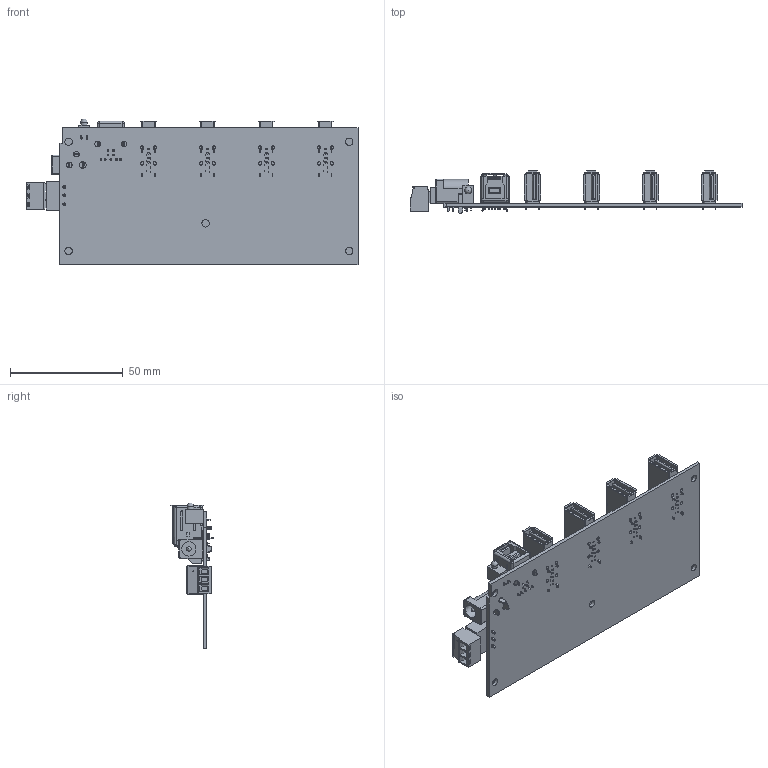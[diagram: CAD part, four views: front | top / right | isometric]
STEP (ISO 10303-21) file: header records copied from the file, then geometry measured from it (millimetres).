
FILE_DESCRIPTION(/* description */ (''),/* implementation_level */ '2;1');
FILE_NAME(/* name */ 'C:/Users/Leo Pinto/Documents/Fusion 360/AA PCBAs/GM-HU34-PCBA/GM-HU34-PCBA Model3D LPv1.step',/* time_stamp */ '2022-07-12T14:14:52-04:00',/* author */ (''),/* organization */ (''),/* preprocessor_version */ 'ST-DEVELOPER v19',/* originating_system */ 'Autodesk Translation Framework v11.7.0.108',/* authorisation */ '');
FILE_SCHEMA (('AUTOMOTIVE_DESIGN { 1 0 10303 214 3 1 1 }'));
Length unit declared in the file: millimetre
Products named in the file (13): GM-HU34-PCBA; PCBA_ASM_12; ACCURATE_DS-210_1; LED_2; OQ3_81_1; PCB_7; USB3B_5; USB_3_A_F_2; USB_3_A_F_2_2; USB_3_A_F_2_4; USB_3_A_F_2_6; Component48; Terminal 3 Connector 3.5 v2
Assembly tree (12 placements, depth 4):
  GM-HU34-PCBA
    PCBA_ASM_12
      ACCURATE_DS-210_1
      LED_2
      OQ3_81_1
      PCB_7
      USB3B_5
      USB_3_A_F_2
      USB_3_A_F_2_2
      USB_3_A_F_2_4
      USB_3_A_F_2_6
        Component48
    Terminal 3 Connector 3.5 v2
Bounding box: 147.51 x 19.03 x 64.85 mm (x, y, z)
Volume: 22576.9 mm3; surface area: 30962.4 mm2
Topology: 16 solids, 16 shells, 1653 faces, 4133 edges, 2671 vertices
Faces by surface type: plane 1165, cylinder 382, torus 56, sphere 22, bspline 22, cone 6
Full cylindrical faces by diameter (mm): 0.7 x16, 0.8 x11, 1.2 x3, 1.3 x3, 1.5 x16, 2 x7, 2.5 x4, 2.8 x6, 3 x2, 3.3 x5, 5.3 x5, 6.3 x1
Entity records: 52776 total; most frequent: CARTESIAN_POINT 12576, ORIENTED_EDGE 8214, DIRECTION 8066, EDGE_CURVE 4107, LINE 3126, VECTOR 3126, VERTEX_POINT 2669, AXIS2_PLACEMENT_3D 2470
